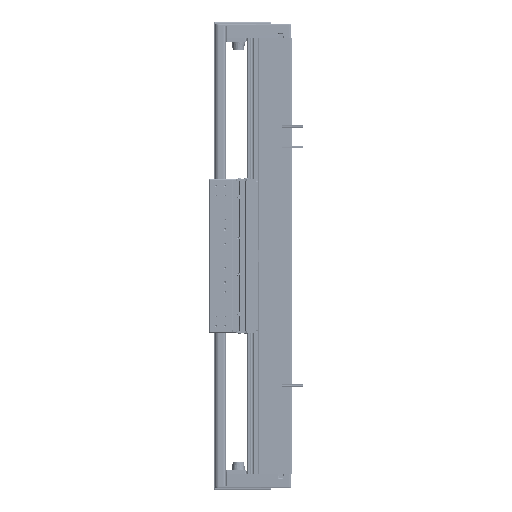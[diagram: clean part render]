
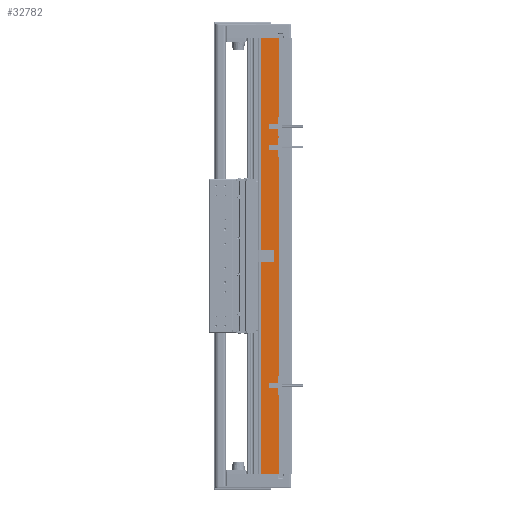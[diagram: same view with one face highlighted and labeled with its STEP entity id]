
A CAD part, left-side view. The second image highlights one B-rep face of the part: STEP entity #32782.
In plain terms, the highlighted planar face has unit normal (-1, 0, 0).
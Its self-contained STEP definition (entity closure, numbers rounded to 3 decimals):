
#5457 = CARTESIAN_POINT ( 'NONE',  ( -97.5, 36.95, -270. ) ) ;
#8665 = CARTESIAN_POINT ( 'NONE',  ( -97.5, 36.95, 270. ) ) ;
#12918 = CARTESIAN_POINT ( 'NONE',  ( -97.5, 14.45, -270. ) ) ;
#12986 = FACE_OUTER_BOUND ( 'NONE', #120494, .T. ) ;
#14713 = CARTESIAN_POINT ( 'NONE',  ( -97.5, 36.95, 270. ) ) ;
#14877 = LINE ( 'NONE', #5457, #65768 ) ;
#17318 = AXIS2_PLACEMENT_3D ( 'NONE', #96328, #84263, #85579 ) ;
#20485 = ORIENTED_EDGE ( 'NONE', *, *, #58698, .F. ) ;
#21001 = VERTEX_POINT ( 'NONE', #12918 ) ;
#22409 = PLANE ( 'NONE',  #17318 ) ;
#32782 = ADVANCED_FACE ( 'NONE', ( #12986 ), #22409, .F. ) ;
#34231 = LINE ( 'NONE', #75244, #68129 ) ;
#36181 = LINE ( 'NONE', #14713, #86442 ) ;
#43396 = EDGE_CURVE ( 'NONE', #101193, #83941, #36181, .T. ) ;
#44146 = ORIENTED_EDGE ( 'NONE', *, *, #126315, .T. ) ;
#47659 = VERTEX_POINT ( 'NONE', #130017 ) ;
#58698 = EDGE_CURVE ( 'NONE', #83941, #21001, #34231, .T. ) ;
#65768 = VECTOR ( 'NONE', #98237, 1000. ) ;
#65821 = DIRECTION ( 'NONE',  ( 0., -1., 0. ) ) ;
#68129 = VECTOR ( 'NONE', #97452, 1000. ) ;
#69861 = LINE ( 'NONE', #8665, #115774 ) ;
#73142 = CARTESIAN_POINT ( 'NONE',  ( -97.5, 14.45, 270. ) ) ;
#74529 = EDGE_CURVE ( 'NONE', #101193, #47659, #69861, .T. ) ;
#75244 = CARTESIAN_POINT ( 'NONE',  ( -97.5, 14.45, 270. ) ) ;
#76786 = ORIENTED_EDGE ( 'NONE', *, *, #74529, .T. ) ;
#83941 = VERTEX_POINT ( 'NONE', #73142 ) ;
#84263 = DIRECTION ( 'NONE',  ( 1., 0., 0. ) ) ;
#85579 = DIRECTION ( 'NONE',  ( 0., 1., 0. ) ) ;
#86442 = VECTOR ( 'NONE', #65821, 1000. ) ;
#91840 = CARTESIAN_POINT ( 'NONE',  ( -97.5, 36.95, 270. ) ) ;
#96328 = CARTESIAN_POINT ( 'NONE',  ( -97.5, 36.95, 270. ) ) ;
#97452 = DIRECTION ( 'NONE',  ( 0., 0., -1. ) ) ;
#98237 = DIRECTION ( 'NONE',  ( 0., -1., 0. ) ) ;
#100777 = DIRECTION ( 'NONE',  ( 0., 0., -1. ) ) ;
#101193 = VERTEX_POINT ( 'NONE', #91840 ) ;
#104554 = ORIENTED_EDGE ( 'NONE', *, *, #43396, .F. ) ;
#115774 = VECTOR ( 'NONE', #100777, 1000. ) ;
#120494 = EDGE_LOOP ( 'NONE', ( #44146, #20485, #104554, #76786 ) ) ;
#126315 = EDGE_CURVE ( 'NONE', #47659, #21001, #14877, .T. ) ;
#130017 = CARTESIAN_POINT ( 'NONE',  ( -97.5, 36.95, -270. ) ) ;
